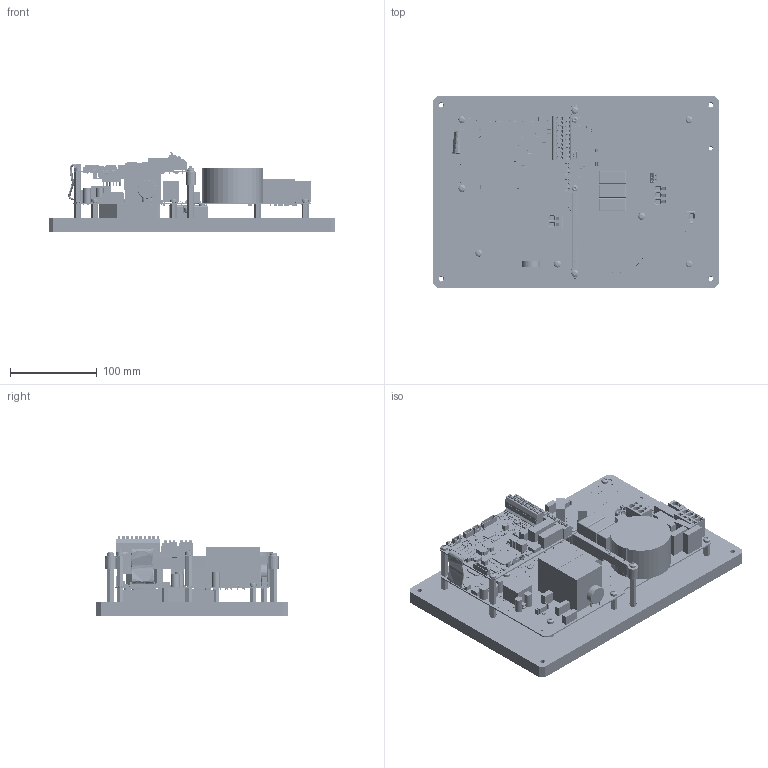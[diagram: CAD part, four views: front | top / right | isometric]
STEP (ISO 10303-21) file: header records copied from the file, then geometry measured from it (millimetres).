
FILE_DESCRIPTION(('CATIA V5 STEP 214'),'2;1');
FILE_NAME('C:\Temp\ddxv7\268864\MKT INV P BG C-2-0000A.stp','2016-04-25T09:46:04+00:00',('Leopold Kostal'),('Kostal GmbH'),'CATIA Version 5 Release 19 SP 9 (IN-10)','CATIA V5 STEP AP214','none');
FILE_SCHEMA(('AUTOMOTIVE_DESIGN { 1 0 10303 214 1 1 1 1 }'));
Products named in the file (1): MKT INV P BG C-2-0000A
Bounding box: 330 x 220 x 90.9 mm (x, y, z)
Volume: 1793841.6 mm3; surface area: 516173.3 mm2
Topology: 1747 solids, 1749 shells, 34936 faces, 90348 edges, 59152 vertices
Faces by surface type: plane 25092, cylinder 8739, cone 380, torus 268, extrusion 241, bspline 141, sphere 41, revolution 34
Entity records: 1022715 total; most frequent: CARTESIAN_POINT 205647, ORIENTED_EDGE 180540, DIRECTION 132571, EDGE_CURVE 90270, VECTOR 69293, LINE 69052, VERTEX_POINT 59152, EDGE_LOOP 40202
